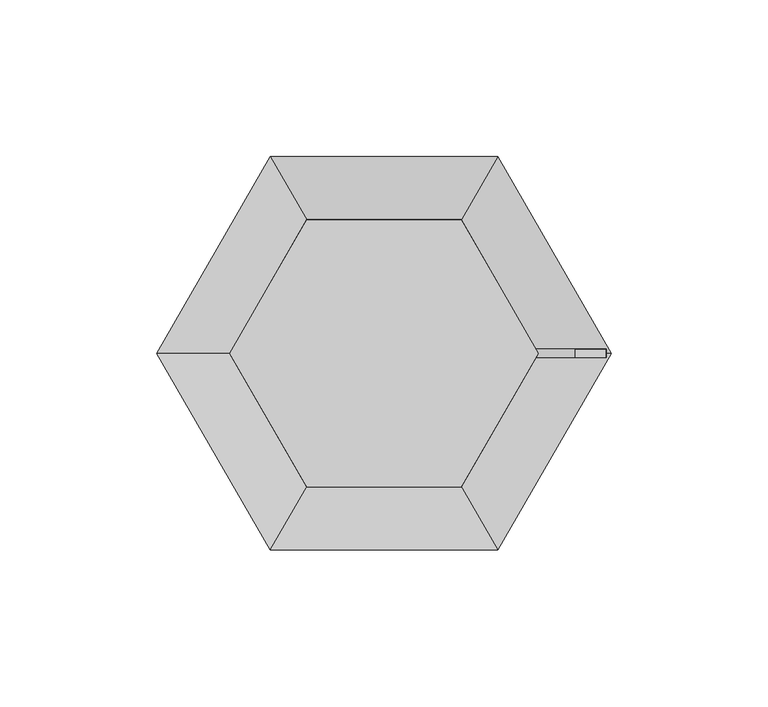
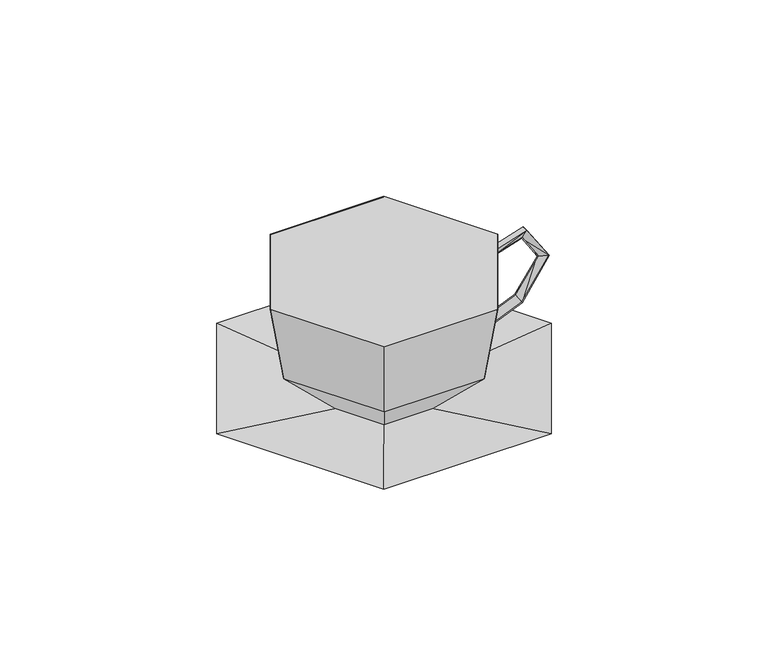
"""IFC4 building model written with IfcOpenShell, lengths in millimetres: geographic element geometry, Enscape AssetDefinition - Cup 005 Tea : Enscape AssetDefinition - Cup 005 Tea."""

import ifcopenshell
import ifcopenshell.guid

model = None  # the IFC model being written
_history = None  # IfcOwnerHistory: only IFC2X3 demands one
_inside = {}  # id of a spatial element -> (the spatial element, [elements in it])
_under = {}  # id of a project, library or spatial element -> (it, [spatial elements below it])
_declared = {}  # id of a project -> (the project, [libraries it declares])
_typed = {}  # id of a type object -> (the type object, [elements of that type])
_made_of = {}  # id of a material, layer set ... -> (it, [elements and type objects made of it])


def new_model(schema):
    """Start an empty IFC model of exactly this schema.

    Asked for "IFC4X3", IfcOpenShell would pick the latest addendum, in which some entities
    have other attributes; the version numbers below select the first issue.
    IFC2X3 requires an IfcOwnerHistory on every rooted entity: one is made here for all.
    """
    global model, _history
    if schema == "IFC4X3":
        model = ifcopenshell.file(schema_version=(4, 3, 0, 0))
    else:
        model = ifcopenshell.file(schema=schema)
    _inside.clear()
    _under.clear()
    _declared.clear()
    _typed.clear()
    _made_of.clear()
    _history = None
    if model.schema == "IFC2X3":
        org = make("IfcOrganization", Name="unknown")
        user = make(
            "IfcPersonAndOrganization",
            ThePerson=make("IfcPerson", FamilyName="unknown"),
            TheOrganization=org,
        )
        app = make(
            "IfcApplication",
            ApplicationDeveloper=org,
            Version="unknown",
            ApplicationFullName="unknown",
            ApplicationIdentifier="unknown",
        )
        _history = make(
            "IfcOwnerHistory",
            OwningUser=user,
            OwningApplication=app,
            ChangeAction="ADDED",
            CreationDate=0,
        )
    return model


def make(cls, **values):
    """One entity of the class cls with the attributes given. An attribute that is None is left unset."""
    return model.create_entity(
        cls, **{name: value for name, value in values.items() if value is not None}
    )


def rooted(cls, **values):
    """An entity with a GlobalId (a new one), such as an element, a storey or a relation."""
    return make(cls, GlobalId=ifcopenshell.guid.new(), OwnerHistory=_history, **values)


def si_unit(unit_type, name, prefix=None):
    """IfcSIUnit, for example si_unit("LENGTHUNIT", "METRE", prefix="MILLI")."""
    return make("IfcSIUnit", UnitType=unit_type, Prefix=prefix, Name=name)


def assignment(units):
    """IfcUnitAssignment: the units of a project."""
    return None if units is None else make("IfcUnitAssignment", Units=units)


def point(xyz):
    """IfcCartesianPoint."""
    return None if xyz is None else make("IfcCartesianPoint", Coordinates=xyz)


def direction(xyz):
    """IfcDirection."""
    return None if xyz is None else make("IfcDirection", DirectionRatios=xyz)


def frame(location, z_axis=None, x_axis=None):
    """IfcAxis2Placement3D, a coordinate frame: its origin and axes. An axis left out is left unset."""
    return make(
        "IfcAxis2Placement3D",
        Location=point(location),
        Axis=direction(z_axis),
        RefDirection=direction(x_axis),
    )


def origin():
    """The frame at (0, 0, 0) with its axes left unset."""
    return frame((0.0, 0.0, 0.0))


def place(relative_to, where):
    """IfcLocalPlacement: puts the frame where relative to a parent placement (None: the world)."""
    return make(
        "IfcLocalPlacement", PlacementRelTo=relative_to, RelativePlacement=where
    )


def context(
    kind, dimensions, precision=None, world=None, true_north=None, identifier=None
):
    """IfcGeometricRepresentationContext, for example the 3D "Model" context."""
    return make(
        "IfcGeometricRepresentationContext",
        ContextIdentifier=identifier,
        ContextType=kind,
        CoordinateSpaceDimension=dimensions,
        Precision=precision,
        WorldCoordinateSystem=world,
        TrueNorth=true_north,
    )


def project(units=None, contexts=None):
    """IfcProject with its units and contexts."""
    return rooted(
        "IfcProject",
        Name="project",
        RepresentationContexts=contexts,
        UnitsInContext=assignment(units),
    )


def spatial(cls, under=None, at=None, **own):
    """A site, building, storey or space (cls), placed at a placement, below another one or the project."""
    s = rooted(cls, ObjectPlacement=at, **own)
    if under is not None:
        _under.setdefault(under.id(), (under, []))[1].append(s)
    return s


def point_list(points):
    """IfcCartesianPointList2D or 3D."""
    cls = (
        "IfcCartesianPointList2D" if len(points[0]) == 2 else "IfcCartesianPointList3D"
    )
    return make(cls, CoordList=points)


def triangles(points, corners, closed=None, point_numbers=None):
    """IfcTriangulatedFaceSet: each triangle names its three corners, points numbered from 1."""
    return make(
        "IfcTriangulatedFaceSet",
        Coordinates=point_list(points),
        Closed=closed,
        CoordIndex=corners,
        PnIndex=point_numbers,
    )


def shape(context_of_items, identifier, shape_type, items):
    """IfcShapeRepresentation: the items that make up one representation, for example the "Body"."""
    return make(
        "IfcShapeRepresentation",
        ContextOfItems=context_of_items,
        RepresentationIdentifier=identifier,
        RepresentationType=shape_type,
        Items=items,
    )


def source(mapping_origin, context_of_items, identifier, shape_type, items):
    """IfcRepresentationMap: a shape defined once, which mapped items show again and again."""
    return make(
        "IfcRepresentationMap",
        MappingOrigin=mapping_origin,
        MappedRepresentation=shape(context_of_items, identifier, shape_type, items),
    )


def transform(
    local_origin,
    x_axis=None,
    y_axis=None,
    z_axis=None,
    scale=None,
    scale2=None,
    scale3=None,
    uniform=True,
):
    """IfcCartesianTransformationOperator3D, or its non-uniform kind. x_axis, y_axis, z_axis: its Axis1, 2, 3."""
    if uniform:
        return make(
            "IfcCartesianTransformationOperator3D",
            Axis1=direction(x_axis),
            Axis2=direction(y_axis),
            LocalOrigin=point(local_origin),
            Scale=scale,
            Axis3=direction(z_axis),
        )
    return make(
        "IfcCartesianTransformationOperator3DnonUniform",
        Axis1=direction(x_axis),
        Axis2=direction(y_axis),
        LocalOrigin=point(local_origin),
        Scale=scale,
        Axis3=direction(z_axis),
        Scale2=scale2,
        Scale3=scale3,
    )


def mapped(mapping_source, mapping_target):
    """IfcMappedItem: shows the shape of a source again, moved by a transform."""
    return make(
        "IfcMappedItem", MappingSource=mapping_source, MappingTarget=mapping_target
    )


def made_of(thing, what):
    """Note that an element or type object is made of a material, layer set ...; save() writes the relation."""
    if what is not None:
        _made_of.setdefault(what.id(), (what, []))[1].append(thing)
    return thing


def element(
    cls,
    number,
    at=None,
    inside=None,
    cuts=None,
    type_object=None,
    material=None,
    context=None,
    identifier="Body",
    shape_type=None,
    held_by="IfcProductDefinitionShape",
    body=None,
    shapes=None,
    **own,
):
    """One element of the class cls, such as IfcWall. Its Tag is "e" and its number.

    at: its placement. inside: the storey or other place that contains it. cuts: it is an
    opening in that element (IfcRelVoidsElement). A single representation is given by context,
    identifier, shape_type and body (its items); several are given by shapes. held_by: the class
    of the entity that holds the representations. save() writes the other relations.
    """
    e = rooted(cls, Tag="e%d" % number, ObjectPlacement=at, **own)
    if body is not None:
        shapes = [shape(context, identifier, shape_type, body)]
    if shapes is not None:
        e.Representation = make(held_by, Representations=shapes)
    if inside is not None:
        _inside.setdefault(inside.id(), (inside, []))[1].append(e)
    if cuts is not None:
        rooted(
            "IfcRelVoidsElement", RelatingBuildingElement=cuts, RelatedOpeningElement=e
        )
    if type_object is not None:
        _typed.setdefault(type_object.id(), (type_object, []))[1].append(e)
    return made_of(e, material)


def aggregate(whole, parts):
    """IfcRelAggregates: a whole, such as a stair, and the parts it consists of."""
    return rooted("IfcRelAggregates", RelatingObject=whole, RelatedObjects=parts)


def save(model, path):
    """Write the relations noted so far, then the file.

    IfcRelAggregates (storeys below a building ...), IfcRelContainedInSpatialStructure (elements
    in a storey), IfcRelDefinesByType, IfcRelAssociatesMaterial and IfcRelDeclares: one each for
    every whole, place, type object, material and project.
    """
    for whole, parts in _under.values():
        aggregate(whole, parts)
    for where, things in _inside.values():
        rooted(
            "IfcRelContainedInSpatialStructure",
            RelatedElements=things,
            RelatingStructure=where,
        )
    for kind, things in _typed.values():
        rooted("IfcRelDefinesByType", RelatedObjects=things, RelatingType=kind)
    for what, things in _made_of.values():
        rooted("IfcRelAssociatesMaterial", RelatedObjects=things, RelatingMaterial=what)
    for by, libraries in _declared.values():
        rooted("IfcRelDeclares", RelatingContext=by, RelatedDefinitions=libraries)
    model.write(path)


def geographic_element_61e69f08(model_context):
    return source(origin(), model_context, "Body", "Tessellation", [
        triangles([(21.7153192, 37.6126615, 24.1499544), (43.4306385, 0.0, 24.1499544), (20.9432597, 0.0, 2.4003438), (10.4711098, 18.1376658, 2.4003438), (-10.4711098, 18.1376658, 2.4003438), (10.4711098, -18.1376658, 2.4003438), (49.1893894, 0.0, 57.9490837), (-20.9432597, 0.0, 2.4003438), (-10.4711098, -18.1376658, 2.4003438), (-21.7153192, -37.6126615, 24.1499544), (21.7153192, -37.6126615, 24.1499544), (24.5946947, -42.5993484, 57.9490837), (-43.4306385, 0.0, 24.1499544), (-49.1893894, 0.0, 57.9490837), (-24.5946947, -42.5993484, 57.9490837), (24.5946947, 42.5993484, 57.9490837), (-24.5946947, 42.5993484, 57.9490837), (-21.7153192, 37.6126615, 24.1499544), (36.2088273, 62.7154761, 8.9498534), (0.0, 0.0, -0.0509164), (36.2088273, -62.7154761, 8.9498534), (72.4176546, 0.0, 8.9498534), (-36.2088273, 62.7154761, 8.9498534), (-72.4176546, 0.0, 8.9498534), (-36.2088273, -62.7154761, 8.9498534), (42.8903008, -1.3508429, 50.6212833), (46.7329305, 0.0, 48.2573061), (42.8903008, 1.3508429, 50.6212833), (70.8808071, -1.3508429, 41.3607339), (66.4084783, 0.0, 41.8169016), (59.7322007, 0.0, 52.2485277), (61.0165382, -1.3508429, 56.4205523), (61.0165382, 1.3508429, 56.4205523), (70.8808071, 1.3508429, 41.3607339), (59.0526182, 1.3508429, 23.9608353), (56.6325352, 0.0, 27.7369629), (59.0526182, -1.3508429, 23.9608353), (22.8406775, -1.3508429, 8.479137), (22.8406775, 1.3508429, 8.479137), (21.2331721, 0.0, 12.6480459)], [[35, 39, 40], [39, 35, 37], [37, 38, 39], [40, 36, 35], [38, 37, 36], [36, 40, 38], [34, 35, 36], [35, 34, 29], [29, 37, 35], [36, 30, 34], [37, 29, 30], [30, 36, 37], [33, 34, 30], [33, 28, 26], [34, 33, 32], [32, 29, 34], [26, 32, 33], [30, 31, 33], [29, 32, 31], [31, 30, 29], [28, 33, 31], [31, 27, 28], [32, 26, 27], [27, 31, 32], [25, 21, 20], [24, 25, 20], [23, 24, 20], [19, 23, 20], [21, 22, 20], [22, 19, 20], [17, 16, 1], [17, 14, 16], [14, 17, 18], [1, 18, 17], [18, 13, 14], [14, 15, 16], [15, 14, 13], [15, 12, 16], [12, 7, 16], [7, 12, 11], [10, 11, 12], [12, 15, 10], [13, 10, 15], [9, 10, 13], [13, 8, 9], [8, 13, 18], [18, 5, 8], [5, 18, 1], [8, 5, 6], [9, 8, 6], [10, 9, 6], [6, 11, 10], [11, 6, 3], [11, 2, 7], [2, 1, 16], [16, 7, 2], [3, 2, 11], [5, 4, 6], [4, 3, 6], [1, 4, 5], [2, 3, 4], [4, 1, 2]], closed=False),
    ])


if __name__ == "__main__":
    model = new_model("IFC4")
    model_context = context("Model", 3, world=origin())
    ifc_project = project(units=[si_unit("LENGTHUNIT", "METRE", prefix="MILLI")], contexts=[model_context])
    site = spatial("IfcSite", under=ifc_project)
    building = spatial("IfcBuilding", under=site)
    placement = place(None, origin())
    geographic_element_shape = geographic_element_61e69f08(model_context)
    element("IfcGeographicElement", 1, ObjectType="Enscape AssetDefinition - Cup 005 Tea : Enscape AssetDefinition - Cup 005 Tea", at=placement, inside=building, context=model_context, shape_type="MappedRepresentation", body=[
        mapped(geographic_element_shape, transform((0.0, 0.0, 0.0), x_axis=(1.0, 0.0, 0.0), y_axis=(0.0, 1.0, 0.0), z_axis=(0.0, 0.0, 1.0))),
    ])
    save(model, "model.ifc")
